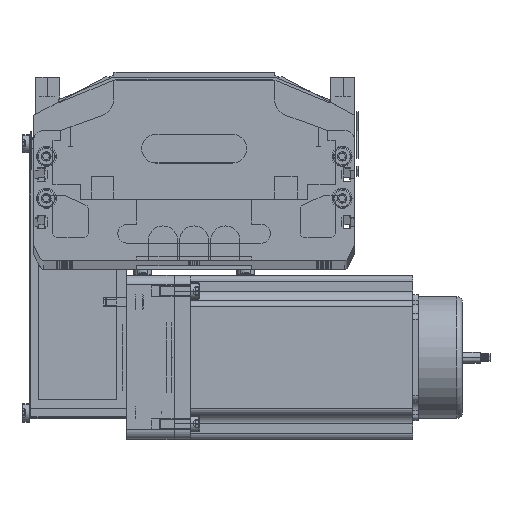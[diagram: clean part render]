
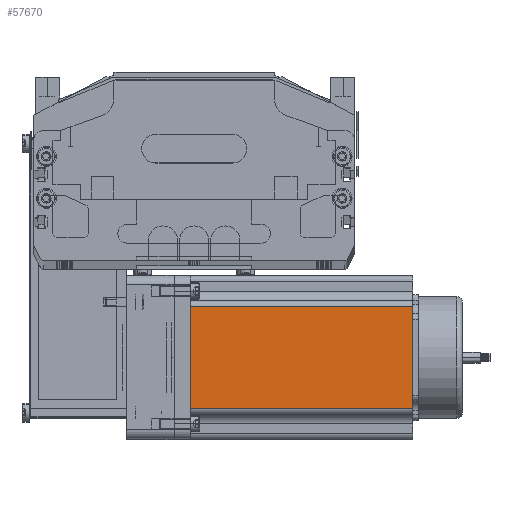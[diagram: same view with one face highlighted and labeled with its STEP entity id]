
A CAD part, top view. The second image highlights one B-rep face of the part: STEP entity #57670.
In plain terms, the highlighted planar face has unit normal (0, 0, 1) as drawn and (0, -1, 0) by its records, which use the part's own axes.
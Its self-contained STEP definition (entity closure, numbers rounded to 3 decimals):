
#28483 = LINE ( 'NONE', #28541, #28540 ) ;
#28486 = LINE ( 'NONE', #28490, #28489 ) ;
#28488 = DIRECTION ( 'NONE',  ( 0., 0., -1. ) ) ;
#28489 = VECTOR ( 'NONE', #28488, 1000. ) ;
#28490 = CARTESIAN_POINT ( 'NONE',  ( 16.16, 0., 116.5 ) ) ;
#28522 = DIRECTION ( 'NONE',  ( 1., 0., 0. ) ) ;
#28523 = VECTOR ( 'NONE', #28522, 1000. ) ;
#28526 = LINE ( 'NONE', #28535, #28523 ) ;
#28535 = CARTESIAN_POINT ( 'NONE',  ( 0., 0., 0. ) ) ;
#28539 = DIRECTION ( 'NONE',  ( 0., 0., 1. ) ) ;
#28540 = VECTOR ( 'NONE', #28539, 1000. ) ;
#28541 = CARTESIAN_POINT ( 'NONE',  ( 69.74, 0., 116.5 ) ) ;
#28553 = CARTESIAN_POINT ( 'NONE',  ( 16.16, 0., 0. ) ) ;
#28579 = CARTESIAN_POINT ( 'NONE',  ( 69.74, 0., 116.5 ) ) ;
#28581 = DIRECTION ( 'NONE',  ( 0., 0., 1. ) ) ;
#28585 = CARTESIAN_POINT ( 'NONE',  ( 0., 0., 116.5 ) ) ;
#28590 = CARTESIAN_POINT ( 'NONE',  ( 69.74, 0., 0. ) ) ;
#28592 = AXIS2_PLACEMENT_3D ( 'NONE', #28585, #28594, #28581 ) ;
#28594 = DIRECTION ( 'NONE',  ( 0., 1., 0. ) ) ;
#28595 = FACE_OUTER_BOUND ( 'NONE', #57691, .T. ) ;
#28596 = CARTESIAN_POINT ( 'NONE',  ( 16.16, 0., 116.5 ) ) ;
#28598 = PLANE ( 'NONE',  #28592 ) ;
#28650 = DIRECTION ( 'NONE',  ( 1., 0., 0. ) ) ;
#28651 = VECTOR ( 'NONE', #28650, 1000. ) ;
#28652 = CARTESIAN_POINT ( 'NONE',  ( 0., 0., 116.5 ) ) ;
#28654 = LINE ( 'NONE', #28652, #28651 ) ;
#57636 = EDGE_CURVE ( 'NONE', #57664, #57676, #28486, .T. ) ;
#57638 = EDGE_CURVE ( 'NONE', #57674, #57673, #28483, .T. ) ;
#57646 = EDGE_CURVE ( 'NONE', #57676, #57674, #28526, .T. ) ;
#57658 = ORIENTED_EDGE ( 'NONE', *, *, #57646, .T. ) ;
#57664 = VERTEX_POINT ( 'NONE', #28596 ) ;
#57667 = ORIENTED_EDGE ( 'NONE', *, *, #57702, .F. ) ;
#57668 = ORIENTED_EDGE ( 'NONE', *, *, #57638, .T. ) ;
#57670 = ADVANCED_FACE ( 'NONE', ( #28595 ), #28598, .F. ) ;
#57673 = VERTEX_POINT ( 'NONE', #28579 ) ;
#57674 = VERTEX_POINT ( 'NONE', #28590 ) ;
#57676 = VERTEX_POINT ( 'NONE', #28553 ) ;
#57691 = EDGE_LOOP ( 'NONE', ( #57658, #57668, #57667, #57694 ) ) ;
#57694 = ORIENTED_EDGE ( 'NONE', *, *, #57636, .T. ) ;
#57702 = EDGE_CURVE ( 'NONE', #57664, #57673, #28654, .T. ) ;
